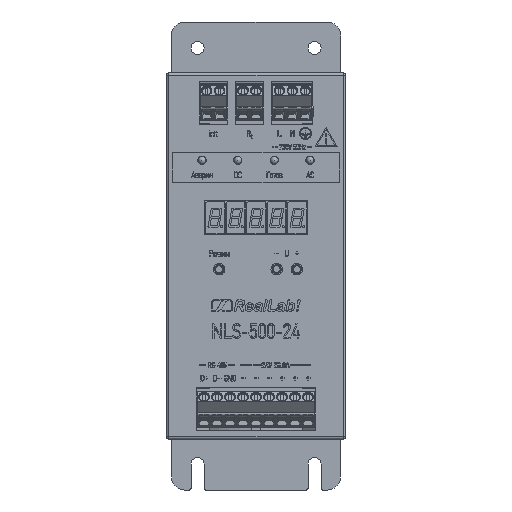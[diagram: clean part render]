
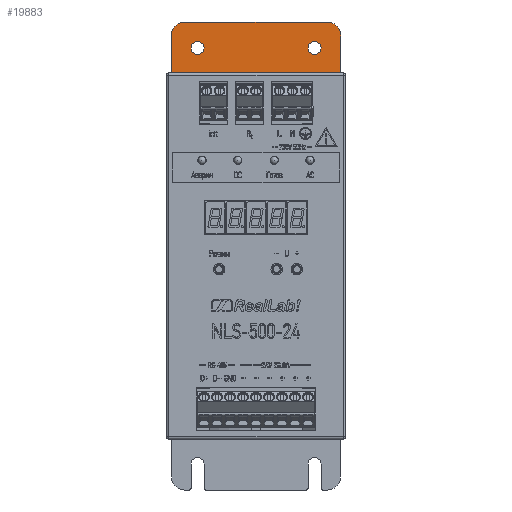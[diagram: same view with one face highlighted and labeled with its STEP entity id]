
A CAD part, left-side view. The second image highlights one B-rep face of the part: STEP entity #19883.
In plain terms, the highlighted planar face has unit normal (-1, 0, 0).
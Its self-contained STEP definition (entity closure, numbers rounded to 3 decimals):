
#19883=ADVANCED_FACE('',(#72028,#72030,#72032),#72034,.F.);
#72028=FACE_BOUND('',#72029,.T.);
#72029=EDGE_LOOP('',(#114957,#114958,#114959,#114960,#114961,#114962));
#72030=FACE_BOUND('',#72031,.T.);
#72031=EDGE_LOOP('',(#114963));
#72032=FACE_BOUND('',#72033,.T.);
#72033=EDGE_LOOP('',(#114964));
#72034=PLANE('',#72035);
#72035=AXIS2_PLACEMENT_3D('',#72036,#72037,#72038);
#72036=CARTESIAN_POINT('',(0.,31.5,68.5));
#72037=DIRECTION('',(1.,0.,0.));
#72038=DIRECTION('',(0.,1.,0.));
#114957=ORIENTED_EDGE('',*,*,#144747,.F.);
#114958=ORIENTED_EDGE('',*,*,#144275,.F.);
#114959=ORIENTED_EDGE('',*,*,#146565,.F.);
#114960=ORIENTED_EDGE('',*,*,#146566,.F.);
#114961=ORIENTED_EDGE('',*,*,#146567,.F.);
#114962=ORIENTED_EDGE('',*,*,#144267,.F.);
#114963=ORIENTED_EDGE('',*,*,#146568,.T.);
#114964=ORIENTED_EDGE('',*,*,#146569,.T.);
#144267=EDGE_CURVE('',#164900,#164902,#164903,.T.);
#144275=EDGE_CURVE('',#164915,#164916,#164917,.T.);
#144747=EDGE_CURVE('',#164916,#164900,#165634,.F.);
#146565=EDGE_CURVE('',#168950,#164915,#168951,.T.);
#146566=EDGE_CURVE('',#168952,#168950,#168953,.T.);
#146567=EDGE_CURVE('',#164902,#168952,#168954,.T.);
#146568=EDGE_CURVE('',#168955,#168955,#168956,.T.);
#146569=EDGE_CURVE('',#168957,#168957,#168958,.T.);
#164900=VERTEX_POINT('',#208953);
#164902=VERTEX_POINT('',#208958);
#164903=LINE('',#208959,#208960);
#164915=VERTEX_POINT('',#208988);
#164916=VERTEX_POINT('',#208989);
#164917=LINE('',#208990,#208991);
#165634=LINE('',#210686,#210687);
#168950=VERTEX_POINT('',#220518);
#168951=CIRCLE('',#220519,5.);
#168952=VERTEX_POINT('',#220523);
#168953=LINE('',#220524,#220525);
#168954=CIRCLE('',#220527,5.);
#168955=VERTEX_POINT('',#220531);
#168956=CIRCLE('',#220532,2.5);
#168957=VERTEX_POINT('',#220536);
#168958=CIRCLE('',#220537,2.5);
#208953=CARTESIAN_POINT('',(0.,64.,135.));
#208958=CARTESIAN_POINT('',(0.,64.,153.5));
#208959=CARTESIAN_POINT('',(0.,64.,135.));
#208960=VECTOR('',#208961,1.);
#208961=DIRECTION('',(0.,0.,1.));
#208988=CARTESIAN_POINT('',(0.,-1.,153.5));
#208989=CARTESIAN_POINT('',(0.,-1.,135.));
#208990=CARTESIAN_POINT('',(0.,-1.,153.5));
#208991=VECTOR('',#208992,1.);
#208992=DIRECTION('',(0.,0.,-1.));
#210686=CARTESIAN_POINT('',(0.,64.,135.));
#210687=VECTOR('',#210688,1.);
#210688=DIRECTION('',(0.,-1.,0.));
#220518=CARTESIAN_POINT('',(0.,4.,158.5));
#220519=AXIS2_PLACEMENT_3D('',#220520,#220521,#220522);
#220520=CARTESIAN_POINT('',(0.,4.,153.5));
#220521=DIRECTION('',(1.,0.,0.));
#220522=DIRECTION('',(0.,0.,1.));
#220523=CARTESIAN_POINT('',(0.,59.,158.5));
#220524=CARTESIAN_POINT('',(0.,59.,158.5));
#220525=VECTOR('',#220526,1.);
#220526=DIRECTION('',(0.,-1.,0.));
#220527=AXIS2_PLACEMENT_3D('',#220528,#220529,#220530);
#220528=CARTESIAN_POINT('',(0.,59.,153.5));
#220529=DIRECTION('',(1.,0.,0.));
#220530=DIRECTION('',(0.,1.,0.));
#220531=CARTESIAN_POINT('',(0.,11.5,148.5));
#220532=AXIS2_PLACEMENT_3D('',#220533,#220534,#220535);
#220533=CARTESIAN_POINT('',(0.,9.,148.5));
#220534=DIRECTION('',(1.,0.,0.));
#220535=DIRECTION('',(0.,1.,0.));
#220536=CARTESIAN_POINT('',(0.,56.5,148.5));
#220537=AXIS2_PLACEMENT_3D('',#220538,#220539,#220540);
#220538=CARTESIAN_POINT('',(0.,54.,148.5));
#220539=DIRECTION('',(1.,0.,0.));
#220540=DIRECTION('',(0.,1.,0.));
